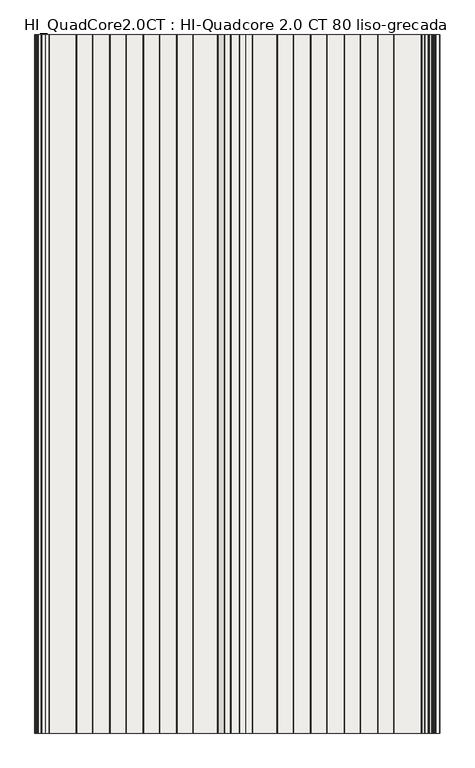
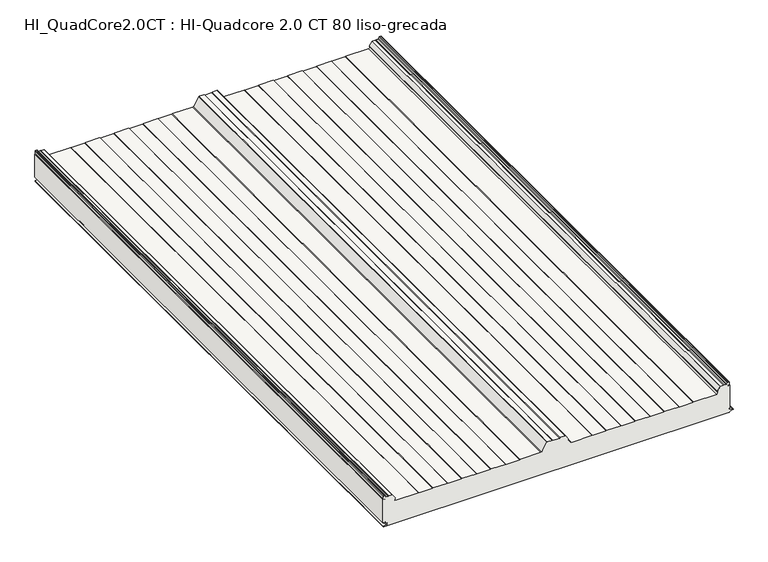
"""IFC4 building model written with IfcOpenShell, lengths in millimetres: slab geometry, HI_QuadCore2.0CT : HI-Quadcore 2.0 CT 80 liso-grecada."""

import ifcopenshell
import ifcopenshell.guid

model = None  # the IFC model being written
_history = None  # IfcOwnerHistory: only IFC2X3 demands one
_inside = {}  # id of a spatial element -> (the spatial element, [elements in it])
_under = {}  # id of a project, library or spatial element -> (it, [spatial elements below it])
_declared = {}  # id of a project -> (the project, [libraries it declares])
_typed = {}  # id of a type object -> (the type object, [elements of that type])
_made_of = {}  # id of a material, layer set ... -> (it, [elements and type objects made of it])


def new_model(schema):
    """Start an empty IFC model of exactly this schema.

    Asked for "IFC4X3", IfcOpenShell would pick the latest addendum, in which some entities
    have other attributes; the version numbers below select the first issue.
    IFC2X3 requires an IfcOwnerHistory on every rooted entity: one is made here for all.
    """
    global model, _history
    if schema == "IFC4X3":
        model = ifcopenshell.file(schema_version=(4, 3, 0, 0))
    else:
        model = ifcopenshell.file(schema=schema)
    _inside.clear()
    _under.clear()
    _declared.clear()
    _typed.clear()
    _made_of.clear()
    _history = None
    if model.schema == "IFC2X3":
        org = make("IfcOrganization", Name="unknown")
        user = make(
            "IfcPersonAndOrganization",
            ThePerson=make("IfcPerson", FamilyName="unknown"),
            TheOrganization=org,
        )
        app = make(
            "IfcApplication",
            ApplicationDeveloper=org,
            Version="unknown",
            ApplicationFullName="unknown",
            ApplicationIdentifier="unknown",
        )
        _history = make(
            "IfcOwnerHistory",
            OwningUser=user,
            OwningApplication=app,
            ChangeAction="ADDED",
            CreationDate=0,
        )
    return model


def make(cls, **values):
    """One entity of the class cls with the attributes given. An attribute that is None is left unset."""
    return model.create_entity(
        cls, **{name: value for name, value in values.items() if value is not None}
    )


def rooted(cls, **values):
    """An entity with a GlobalId (a new one), such as an element, a storey or a relation."""
    return make(cls, GlobalId=ifcopenshell.guid.new(), OwnerHistory=_history, **values)


def si_unit(unit_type, name, prefix=None):
    """IfcSIUnit, for example si_unit("LENGTHUNIT", "METRE", prefix="MILLI")."""
    return make("IfcSIUnit", UnitType=unit_type, Prefix=prefix, Name=name)


def assignment(units):
    """IfcUnitAssignment: the units of a project."""
    return None if units is None else make("IfcUnitAssignment", Units=units)


def point(xyz):
    """IfcCartesianPoint."""
    return None if xyz is None else make("IfcCartesianPoint", Coordinates=xyz)


def direction(xyz):
    """IfcDirection."""
    return None if xyz is None else make("IfcDirection", DirectionRatios=xyz)


def frame(location, z_axis=None, x_axis=None):
    """IfcAxis2Placement3D, a coordinate frame: its origin and axes. An axis left out is left unset."""
    return make(
        "IfcAxis2Placement3D",
        Location=point(location),
        Axis=direction(z_axis),
        RefDirection=direction(x_axis),
    )


def origin():
    """The frame at (0, 0, 0) with its axes left unset."""
    return frame((0.0, 0.0, 0.0))


def place(relative_to, where):
    """IfcLocalPlacement: puts the frame where relative to a parent placement (None: the world)."""
    return make(
        "IfcLocalPlacement", PlacementRelTo=relative_to, RelativePlacement=where
    )


def context(
    kind, dimensions, precision=None, world=None, true_north=None, identifier=None
):
    """IfcGeometricRepresentationContext, for example the 3D "Model" context."""
    return make(
        "IfcGeometricRepresentationContext",
        ContextIdentifier=identifier,
        ContextType=kind,
        CoordinateSpaceDimension=dimensions,
        Precision=precision,
        WorldCoordinateSystem=world,
        TrueNorth=true_north,
    )


def project(units=None, contexts=None):
    """IfcProject with its units and contexts."""
    return rooted(
        "IfcProject",
        Name="project",
        RepresentationContexts=contexts,
        UnitsInContext=assignment(units),
    )


def spatial(cls, under=None, at=None, **own):
    """A site, building, storey or space (cls), placed at a placement, below another one or the project."""
    s = rooted(cls, ObjectPlacement=at, **own)
    if under is not None:
        _under.setdefault(under.id(), (under, []))[1].append(s)
    return s


def polyline(points):
    """IfcPolyline through the points."""
    return make("IfcPolyline", Points=[point(p) for p in points])


def circle_curve(where, radius):
    """IfcCircle in the frame where."""
    return make("IfcCircle", Position=where, Radius=radius)


def shape(context_of_items, identifier, shape_type, items):
    """IfcShapeRepresentation: the items that make up one representation, for example the "Body"."""
    return make(
        "IfcShapeRepresentation",
        ContextOfItems=context_of_items,
        RepresentationIdentifier=identifier,
        RepresentationType=shape_type,
        Items=items,
    )


def source(mapping_origin, context_of_items, identifier, shape_type, items):
    """IfcRepresentationMap: a shape defined once, which mapped items show again and again."""
    return make(
        "IfcRepresentationMap",
        MappingOrigin=mapping_origin,
        MappedRepresentation=shape(context_of_items, identifier, shape_type, items),
    )


def transform(
    local_origin,
    x_axis=None,
    y_axis=None,
    z_axis=None,
    scale=None,
    scale2=None,
    scale3=None,
    uniform=True,
):
    """IfcCartesianTransformationOperator3D, or its non-uniform kind. x_axis, y_axis, z_axis: its Axis1, 2, 3."""
    if uniform:
        return make(
            "IfcCartesianTransformationOperator3D",
            Axis1=direction(x_axis),
            Axis2=direction(y_axis),
            LocalOrigin=point(local_origin),
            Scale=scale,
            Axis3=direction(z_axis),
        )
    return make(
        "IfcCartesianTransformationOperator3DnonUniform",
        Axis1=direction(x_axis),
        Axis2=direction(y_axis),
        LocalOrigin=point(local_origin),
        Scale=scale,
        Axis3=direction(z_axis),
        Scale2=scale2,
        Scale3=scale3,
    )


def mapped(mapping_source, mapping_target):
    """IfcMappedItem: shows the shape of a source again, moved by a transform."""
    return make(
        "IfcMappedItem", MappingSource=mapping_source, MappingTarget=mapping_target
    )


def made_of(thing, what):
    """Note that an element or type object is made of a material, layer set ...; save() writes the relation."""
    if what is not None:
        _made_of.setdefault(what.id(), (what, []))[1].append(thing)
    return thing


def element(
    cls,
    number,
    at=None,
    inside=None,
    cuts=None,
    type_object=None,
    material=None,
    context=None,
    identifier="Body",
    shape_type=None,
    held_by="IfcProductDefinitionShape",
    body=None,
    shapes=None,
    **own,
):
    """One element of the class cls, such as IfcWall. Its Tag is "e" and its number.

    at: its placement. inside: the storey or other place that contains it. cuts: it is an
    opening in that element (IfcRelVoidsElement). A single representation is given by context,
    identifier, shape_type and body (its items); several are given by shapes. held_by: the class
    of the entity that holds the representations. save() writes the other relations.
    """
    e = rooted(cls, Tag="e%d" % number, ObjectPlacement=at, **own)
    if body is not None:
        shapes = [shape(context, identifier, shape_type, body)]
    if shapes is not None:
        e.Representation = make(held_by, Representations=shapes)
    if inside is not None:
        _inside.setdefault(inside.id(), (inside, []))[1].append(e)
    if cuts is not None:
        rooted(
            "IfcRelVoidsElement", RelatingBuildingElement=cuts, RelatedOpeningElement=e
        )
    if type_object is not None:
        _typed.setdefault(type_object.id(), (type_object, []))[1].append(e)
    return made_of(e, material)


def aggregate(whole, parts):
    """IfcRelAggregates: a whole, such as a stair, and the parts it consists of."""
    return rooted("IfcRelAggregates", RelatingObject=whole, RelatedObjects=parts)


def save(model, path):
    """Write the relations noted so far, then the file.

    IfcRelAggregates (storeys below a building ...), IfcRelContainedInSpatialStructure (elements
    in a storey), IfcRelDefinesByType, IfcRelAssociatesMaterial and IfcRelDeclares: one each for
    every whole, place, type object, material and project.
    """
    for whole, parts in _under.values():
        aggregate(whole, parts)
    for where, things in _inside.values():
        rooted(
            "IfcRelContainedInSpatialStructure",
            RelatedElements=things,
            RelatingStructure=where,
        )
    for kind, things in _typed.values():
        rooted("IfcRelDefinesByType", RelatedObjects=things, RelatingType=kind)
    for what, things in _made_of.values():
        rooted("IfcRelAssociatesMaterial", RelatedObjects=things, RelatingMaterial=what)
    for by, libraries in _declared.values():
        rooted("IfcRelDeclares", RelatingContext=by, RelatedDefinitions=libraries)
    model.write(path)


def plane_surface(at):
    """IfcPlane: the flat surface through the origin of the frame at, square to its z axis."""
    return make("IfcPlane", Position=at)


def cylinder_surface(at, radius):
    """IfcCylindricalSurface: all points at the distance radius from the z axis of the frame at."""
    return make("IfcCylindricalSurface", Position=at, Radius=radius)


def revolved_surface(curve, axis_point, axis_direction):
    """IfcSurfaceOfRevolution: the curve turned about the line through axis_point along axis_direction."""
    return make(
        "IfcSurfaceOfRevolution",
        SweptCurve=make("IfcArbitraryOpenProfileDef", ProfileType="CURVE", Curve=curve),
        AxisPosition=make("IfcAxis1Placement", Location=point(axis_point), Axis=direction(axis_direction)),
    )


def advanced_brep(points, edges, surfaces, faces):
    """IfcAdvancedBrep: a solid bounded by faces that lie on surfaces and meet in shared edges.

    An edge is (start, end): straight between two places in points (the first is 0);
    or (start, end, curve); or (start, end, curve, False) where it runs against its curve.
    A face is (place in surfaces, loops), or (place, loops, False) where it looks against
    its surface's normal. A loop lists edges by number (the first is 1), with a minus sign
    where the edge is run from its end to its start. The first loop is the outer one.
    """
    corners = [point(p) for p in points]
    vertices = [make("IfcVertexPoint", VertexGeometry=c) for c in corners]
    made = []
    for start, end, *more in edges:
        made.append(
            make(
                "IfcEdgeCurve",
                EdgeStart=vertices[start],
                EdgeEnd=vertices[end],
                EdgeGeometry=more[0] if more else make("IfcPolyline", Points=[corners[start], corners[end]]),
                SameSense=more[1] if len(more) > 1 else True,
            )
        )
    hull = []
    for where, loops, *sense in faces:
        bounds = []
        for j, loop in enumerate(loops):
            ring = [make("IfcOrientedEdge", EdgeElement=made[abs(k) - 1], Orientation=k > 0) for k in loop]
            bounds.append(
                make(
                    "IfcFaceOuterBound" if j == 0 else "IfcFaceBound",
                    Bound=make("IfcEdgeLoop", EdgeList=ring),
                    Orientation=True,
                )
            )
        hull.append(make("IfcAdvancedFace", Bounds=bounds, FaceSurface=surfaces[where], SameSense=sense[0] if sense else True))
    return make("IfcAdvancedBrep", Outer=make("IfcClosedShell", CfsFaces=hull))


def hi_quadcore2_0ct_hi_quadcore_2_0_ct_80_liso_grecada_df26bcd7(model_context):
    return source(origin(), model_context, "Body", "AdvancedBrep", [
        advanced_brep(
        [(5.1475465, 0.0, 95.7425833), (1.3824194, 0.0, 97.9163804), (0.0, 0.0, 97.9163804), (0.0, 0.0, 16.239302), (7.510215, 0.0, 16.239302), (7.510215, 0.0, 15.4391074), (3.6125693, 0.0, 15.4391074), (2.4319301, 0.0, 14.2584682), (3.4276302, 0.0, 13.0866965), (11.8278581, 0.0, 11.7547343), (11.7995989, 0.0, 4.4809044), (1.8467032, 0.0, 2.9844289), (2.0100062, 0.0, 0.8), (1147.9590685, 0.0, 0.8), (1149.3391392, 0.0, 2.1800708), (1152.5664905, 0.0, 5.8294074), (1160.7843221, 0.0, 6.8264698), (1160.7843299, 0.0, 9.4135286), (1150.8450446, 0.0, 10.6192254), (1147.8324398, 0.0, 14.0237344), (1147.2282701, 0.0, 15.44), (1142.7624398, 0.0, 15.44), (1142.7624398, 0.0, 16.239302), (1150.0, 0.0, 16.239302), (1150.0, 0.0, 97.9163804), (1148.8824194, 0.0, 97.9163804), (1145.1172924, 0.0, 95.7425833), (1144.7172924, 0.0, 96.4354036), (1148.5824194, 0.0, 98.6669358), (1148.5824194, 0.0, 108.1), (1147.4824194, 0.0, 109.2), (1143.8888221, 0.0, 109.2), (1142.8725546, 0.0, 108.5209518), (1141.0157992, 0.0, 104.0383476), (1138.8631598, 0.0, 102.6), (1132.1371875, 0.0, 102.6), (1130.4324194, 0.0, 101.8110374), (1128.7276514, 0.0, 102.6), (1119.4004541, 0.0, 102.6), (1118.4939153, 0.0, 102.1230469), (1109.1558806, 0.0, 88.5361221), (1109.356723, 0.0, 87.0692788), (1110.3070878, 0.0, 86.2744554), (1107.4852773, 0.0, 79.2), (1031.3816122, 0.0, 79.2), (1029.6495614, 0.0, 78.2), (984.6152775, 0.0, 78.2), (982.8832267, 0.0, 79.2), (935.3816122, 0.0, 79.2), (933.6495614, 0.0, 78.2), (888.6152775, 0.0, 78.2), (886.8832267, 0.0, 79.2), (839.3816122, 0.0, 79.2), (837.6495614, 0.0, 78.2), (792.6152775, 0.0, 78.2), (790.8832267, 0.0, 79.2), (743.3816122, 0.0, 79.2), (741.6495614, 0.0, 78.2), (696.6152775, 0.0, 78.2), (694.8832267, 0.0, 79.2), (625.9029123, 0.0, 79.2), (623.9344839, 0.0, 80.2833287), (605.9445057, 0.0, 108.6885573), (605.0152048, 0.0, 109.2), (588.8816122, 0.0, 109.2), (586.283536, 0.0, 107.7), (563.9813029, 0.0, 107.7), (561.3832267, 0.0, 109.2), (545.2496341, 0.0, 109.2), (544.3203331, 0.0, 108.6885573), (526.330355, 0.0, 80.2833287), (524.3619266, 0.0, 79.2), (455.3816122, 0.0, 79.2), (453.6495614, 0.0, 78.2), (408.6152775, 0.0, 78.2), (406.8832267, 0.0, 79.2), (359.3816122, 0.0, 79.2), (357.6495614, 0.0, 78.2), (312.6152775, 0.0, 78.2), (310.8832267, 0.0, 79.2), (263.3816122, 0.0, 79.2), (261.6495614, 0.0, 78.2), (216.6152775, 0.0, 78.2), (214.8832267, 0.0, 79.2), (167.3816122, 0.0, 79.2), (165.6495614, 0.0, 78.2), (120.6152775, 0.0, 78.2), (118.8832267, 0.0, 79.2), (42.7795617, 0.0, 79.2), (39.9577511, 0.0, 86.2744555), (40.9081159, 0.0, 87.0692788), (41.1089583, 0.0, 88.5361221), (31.7709236, 0.0, 102.1230469), (30.8643848, 0.0, 102.6), (21.5371875, 0.0, 102.6), (19.8324194, 0.0, 101.8110374), (18.1276514, 0.0, 102.6), (11.4016791, 0.0, 102.6), (9.2490397, 0.0, 104.0383476), (7.3922843, 0.0, 108.5209518), (6.3760168, 0.0, 109.2), (2.7824194, 0.0, 109.2), (1.6824194, 0.0, 108.1), (1.6824194, 0.0, 98.6669358), (5.5475465, 0.0, 96.4354036), (5.1475465, 2000.0, 95.7425833), (5.5475465, 2000.0, 96.4354036), (1.6824194, 2000.0, 98.6669358), (1.6824194, 2000.0, 108.1), (2.7824194, 2000.0, 109.2), (6.3760168, 2000.0, 109.2), (7.3922843, 2000.0, 108.5209518), (9.2490397, 2000.0, 104.0383476), (11.4016791, 2000.0, 102.6), (18.1276514, 2000.0, 102.6), (19.8324194, 2000.0, 101.8110374), (21.5371875, 2000.0, 102.6), (30.8643848, 2000.0, 102.6), (31.7709236, 2000.0, 102.1230469), (41.1089583, 2000.0, 88.5361221), (40.9081159, 2000.0, 87.0692788), (39.9577511, 2000.0, 86.2744555), (42.7795617, 2000.0, 79.2), (118.8832267, 2000.0, 79.2), (120.6152775, 2000.0, 78.2), (165.6495614, 2000.0, 78.2), (167.3816122, 2000.0, 79.2), (214.8832267, 2000.0, 79.2), (216.6152775, 2000.0, 78.2), (261.6495614, 2000.0, 78.2), (263.3816122, 2000.0, 79.2), (310.8832267, 2000.0, 79.2), (312.6152775, 2000.0, 78.2), (357.6495614, 2000.0, 78.2), (359.3816122, 2000.0, 79.2), (406.8832267, 2000.0, 79.2), (408.6152775, 2000.0, 78.2), (453.6495614, 2000.0, 78.2), (455.3816122, 2000.0, 79.2), (524.3619266, 2000.0, 79.2), (526.330355, 2000.0, 80.2833287), (544.3203331, 2000.0, 108.6885573), (545.2496341, 2000.0, 109.2), (561.3832267, 2000.0, 109.2), (563.9813029, 2000.0, 107.7), (586.283536, 2000.0, 107.7), (588.8816122, 2000.0, 109.2), (605.0152048, 2000.0, 109.2), (605.9445057, 2000.0, 108.6885573), (623.9344839, 2000.0, 80.2833287), (625.9029123, 2000.0, 79.2), (694.8832267, 2000.0, 79.2), (696.6152775, 2000.0, 78.2), (741.6495614, 2000.0, 78.2), (743.3816122, 2000.0, 79.2), (790.8832267, 2000.0, 79.2), (792.6152775, 2000.0, 78.2), (837.6495614, 2000.0, 78.2), (839.3816122, 2000.0, 79.2), (886.8832267, 2000.0, 79.2), (888.6152775, 2000.0, 78.2), (933.6495614, 2000.0, 78.2), (935.3816122, 2000.0, 79.2), (982.8832267, 2000.0, 79.2), (984.6152775, 2000.0, 78.2), (1029.6495614, 2000.0, 78.2), (1031.3816122, 2000.0, 79.2), (1107.4852773, 2000.0, 79.2), (1110.3070878, 2000.0, 86.2744554), (1109.356723, 2000.0, 87.0692788), (1109.1558806, 2000.0, 88.5361221), (1118.4939153, 2000.0, 102.1230469), (1119.4004541, 2000.0, 102.6), (1128.7276514, 2000.0, 102.6), (1130.4324194, 2000.0, 101.8110374), (1132.1371875, 2000.0, 102.6), (1138.8631598, 2000.0, 102.6), (1141.0157992, 2000.0, 104.0383476), (1142.8725546, 2000.0, 108.5209518), (1143.8888221, 2000.0, 109.2), (1147.4824194, 2000.0, 109.2), (1148.5824194, 2000.0, 108.1), (1148.5824194, 2000.0, 98.6669358), (1144.7172924, 2000.0, 96.4354036), (1145.1172924, 2000.0, 95.7425833), (1148.8824194, 2000.0, 97.9163804), (1150.0, 2000.0, 97.9163804), (1150.0, 2000.0, 16.239302), (1142.7624398, 2000.0, 16.239302), (1142.7624398, 2000.0, 15.44), (1147.2282701, 2000.0, 15.44), (1147.8324398, 2000.0, 14.0237344), (1150.8450446, 2000.0, 10.6192254), (1160.7843299, 2000.0, 9.4135286), (1160.7843221, 2000.0, 6.8264698), (1152.5664905, 2000.0, 5.8294074), (1149.3391392, 2000.0, 2.1800708), (1147.9590685, 2000.0, 0.8), (2.0100062, 2000.0, 0.8), (1.8467032, 2000.0, 2.9844289), (11.7995989, 2000.0, 4.4809044), (11.8278581, 2000.0, 11.7547343), (3.4273037, 2000.0, 13.0846342), (2.4319301, 2000.0, 14.2584682), (3.6125693, 2000.0, 15.4391074), (7.510215, 2000.0, 15.4391074), (7.510215, 2000.0, 16.239302), (0.0, 2000.0, 16.239302), (0.0, 2000.0, 97.9163804), (1.3824194, 2000.0, 97.9163804)],
        [
            (0, 1),
            (1, 2),
            (2, 3),
            (3, 4),
            (4, 5),
            (5, 6),
            (6, 7, circle_curve(frame((3.6125693, 0.0, 14.2584682), z_axis=(0.0, -1.0, 0.0), x_axis=(1.0, 0.0, 0.0)), 1.1806391)),
            (7, 8, circle_curve(frame((3.6121809, 0.0, 14.2524448), z_axis=(0.0, -1.0, 0.0), x_axis=(1.0, 0.0, 0.0)), 1.1802661)),
            (8, 9),
            (9, 10, circle_curve(frame((11.2524398, 0.0, 8.12), z_axis=(0.0, 1.0, 0.0), x_axis=(1.0, 0.0, 0.0)), 3.68)),
            (10, 11),
            (11, 12, circle_curve(frame((2.0100062, 0.0, 1.8983185), z_axis=(0.0, -1.0, 0.0), x_axis=(1.0, 0.0, 0.0)), 1.0983185)),
            (12, 13),
            (13, 14, circle_curve(frame((1147.9590685, 0.0, 2.1800708), z_axis=(0.0, -1.0, 0.0), x_axis=(1.0, 0.0, 0.0)), 1.3800708)),
            (14, 15, circle_curve(frame((1153.0160638, 0.0, 2.1800708), z_axis=(0.0, 1.0, 0.0), x_axis=(1.0, 0.0, 0.0)), 3.6769246)),
            (15, 16),
            (16, 17, circle_curve(frame((1160.5224398, 0.0, 8.12), z_axis=(0.0, -1.0, 0.0), x_axis=(1.0, 0.0, 0.0)), 1.3197737)),
            (17, 18),
            (18, 19, circle_curve(frame((1151.2624398, 0.0, 14.0237344), z_axis=(0.0, 1.0, 0.0), x_axis=(1.0, 0.0, 0.0)), 3.43)),
            (19, 20, circle_curve(frame((1145.8703839, 0.0, 14.0237344), z_axis=(0.0, -1.0, 0.0), x_axis=(1.0, 0.0, 0.0)), 1.9620559)),
            (20, 21),
            (21, 22),
            (22, 23),
            (23, 24),
            (24, 25),
            (25, 26),
            (26, 27),
            (27, 28),
            (28, 29),
            (29, 30, circle_curve(frame((1147.4824194, 0.0, 108.1), z_axis=(0.0, -1.0, 0.0), x_axis=(1.0, 0.0, 0.0)), 1.1)),
            (30, 31),
            (31, 32, circle_curve(frame((1143.8888221, 0.0, 108.1), z_axis=(0.0, -1.0, 0.0), x_axis=(1.0, 0.0, 0.0)), 1.1)),
            (32, 33),
            (33, 34, circle_curve(frame((1138.8631598, 0.0, 104.93), z_axis=(0.0, 1.0, 0.0), x_axis=(1.0, 0.0, 0.0)), 2.33)),
            (34, 35),
            (35, 36),
            (36, 37),
            (37, 38),
            (38, 39, circle_curve(frame((1119.4004541, 0.0, 101.5), z_axis=(0.0, -1.0, 0.0), x_axis=(1.0, 0.0, 0.0)), 1.1)),
            (39, 40),
            (40, 41, circle_curve(frame((1110.0624194, 0.0, 87.9130753), z_axis=(0.0, -1.0, 0.0), x_axis=(1.0, 0.0, 0.0)), 1.1)),
            (41, 42),
            (42, 43, circle_curve(frame((1107.4852773, 0.0, 83.3), z_axis=(0.0, 1.0, 0.0), x_axis=(1.0, 0.0, 0.0)), 4.1)),
            (43, 44),
            (44, 45),
            (45, 46),
            (46, 47),
            (47, 48),
            (48, 49),
            (49, 50),
            (50, 51),
            (51, 52),
            (52, 53),
            (53, 54),
            (54, 55),
            (55, 56),
            (56, 57),
            (57, 58),
            (58, 59),
            (59, 60),
            (60, 61, circle_curve(frame((625.9029123, 0.0, 81.53), z_axis=(0.0, 1.0, 0.0), x_axis=(1.0, 0.0, 0.0)), 2.33)),
            (61, 62),
            (62, 63, circle_curve(frame((605.0152048, 0.0, 108.1), z_axis=(0.0, -1.0, 0.0), x_axis=(1.0, 0.0, 0.0)), 1.1)),
            (63, 64),
            (64, 65),
            (65, 66),
            (66, 67),
            (67, 68),
            (68, 69, circle_curve(frame((545.2496341, 0.0, 108.1), z_axis=(0.0, -1.0, 0.0), x_axis=(1.0, 0.0, 0.0)), 1.1)),
            (69, 70),
            (70, 71, circle_curve(frame((524.3619266, 0.0, 81.53), z_axis=(0.0, 1.0, 0.0), x_axis=(1.0, 0.0, 0.0)), 2.33)),
            (71, 72),
            (72, 73),
            (73, 74),
            (74, 75),
            (75, 76),
            (76, 77),
            (77, 78),
            (78, 79),
            (79, 80),
            (80, 81),
            (81, 82),
            (82, 83),
            (83, 84),
            (84, 85),
            (85, 86),
            (86, 87),
            (87, 88),
            (88, 89, circle_curve(frame((42.7795617, 0.0, 83.3), z_axis=(0.0, 1.0, 0.0), x_axis=(1.0, 0.0, 0.0)), 4.1)),
            (89, 90),
            (90, 91, circle_curve(frame((40.2024195, 0.0, 87.9130752), z_axis=(0.0, -1.0, 0.0), x_axis=(1.0, 0.0, 0.0)), 1.1)),
            (91, 92),
            (92, 93, circle_curve(frame((30.8643848, 0.0, 101.5), z_axis=(0.0, -1.0, 0.0), x_axis=(1.0, 0.0, 0.0)), 1.1)),
            (93, 94),
            (94, 95),
            (95, 96),
            (96, 97),
            (97, 98, circle_curve(frame((11.4016791, 0.0, 104.93), z_axis=(0.0, 1.0, 0.0), x_axis=(1.0, 0.0, 0.0)), 2.33)),
            (98, 99),
            (99, 100, circle_curve(frame((6.3760168, 0.0, 108.1), z_axis=(0.0, -1.0, 0.0), x_axis=(1.0, 0.0, 0.0)), 1.1)),
            (100, 101),
            (101, 102, circle_curve(frame((2.7824194, 0.0, 108.1), z_axis=(0.0, -1.0, 0.0), x_axis=(1.0, 0.0, 0.0)), 1.1)),
            (102, 103),
            (103, 104),
            (104, 0),
            (105, 106),
            (106, 107),
            (107, 108),
            (108, 109, circle_curve(frame((2.7824194, 2000.0, 108.1), z_axis=(0.0, 1.0, 0.0), x_axis=(1.0, 0.0, 0.0)), 1.1)),
            (109, 110),
            (110, 111, circle_curve(frame((6.3760168, 2000.0, 108.1), z_axis=(0.0, 1.0, 0.0), x_axis=(1.0, 0.0, 0.0)), 1.1)),
            (111, 112),
            (112, 113, circle_curve(frame((11.4016791, 2000.0, 104.93), z_axis=(0.0, -1.0, 0.0), x_axis=(1.0, 0.0, 0.0)), 2.33)),
            (113, 114),
            (114, 115),
            (115, 116),
            (116, 117),
            (117, 118, circle_curve(frame((30.8643848, 2000.0, 101.5), z_axis=(0.0, 1.0, 0.0), x_axis=(1.0, 0.0, 0.0)), 1.1)),
            (118, 119),
            (119, 120, circle_curve(frame((40.2024195, 2000.0, 87.9130752), z_axis=(0.0, 1.0, 0.0), x_axis=(1.0, 0.0, 0.0)), 1.1)),
            (120, 121),
            (121, 122, circle_curve(frame((42.7795617, 2000.0, 83.3), z_axis=(0.0, -1.0, 0.0), x_axis=(1.0, 0.0, 0.0)), 4.1)),
            (122, 123),
            (123, 124),
            (124, 125),
            (125, 126),
            (126, 127),
            (127, 128),
            (128, 129),
            (129, 130),
            (130, 131),
            (131, 132),
            (132, 133),
            (133, 134),
            (134, 135),
            (135, 136),
            (136, 137),
            (137, 138),
            (138, 139),
            (139, 140, circle_curve(frame((524.3619266, 2000.0, 81.53), z_axis=(0.0, -1.0, 0.0), x_axis=(1.0, 0.0, 0.0)), 2.33)),
            (140, 141),
            (141, 142, circle_curve(frame((545.2496341, 2000.0, 108.1), z_axis=(0.0, 1.0, 0.0), x_axis=(1.0, 0.0, 0.0)), 1.1)),
            (142, 143),
            (143, 144),
            (144, 145),
            (145, 146),
            (146, 147),
            (147, 148, circle_curve(frame((605.0152048, 2000.0, 108.1), z_axis=(0.0, 1.0, 0.0), x_axis=(1.0, 0.0, 0.0)), 1.1)),
            (148, 149),
            (149, 150, circle_curve(frame((625.9029123, 2000.0, 81.53), z_axis=(0.0, -1.0, 0.0), x_axis=(1.0, 0.0, 0.0)), 2.33)),
            (150, 151),
            (151, 152),
            (152, 153),
            (153, 154),
            (154, 155),
            (155, 156),
            (156, 157),
            (157, 158),
            (158, 159),
            (159, 160),
            (160, 161),
            (161, 162),
            (162, 163),
            (163, 164),
            (164, 165),
            (165, 166),
            (166, 167),
            (167, 168, circle_curve(frame((1107.4852773, 2000.0, 83.3), z_axis=(0.0, -1.0, 0.0), x_axis=(1.0, 0.0, 0.0)), 4.1)),
            (168, 169),
            (169, 170, circle_curve(frame((1110.0624194, 2000.0, 87.9130753), z_axis=(0.0, 1.0, 0.0), x_axis=(1.0, 0.0, 0.0)), 1.1)),
            (170, 171),
            (171, 172, circle_curve(frame((1119.4004541, 2000.0, 101.5), z_axis=(0.0, 1.0, 0.0), x_axis=(1.0, 0.0, 0.0)), 1.1)),
            (172, 173),
            (173, 174),
            (174, 175),
            (175, 176),
            (176, 177, circle_curve(frame((1138.8631598, 2000.0, 104.93), z_axis=(0.0, -1.0, 0.0), x_axis=(1.0, 0.0, 0.0)), 2.33)),
            (177, 178),
            (178, 179, circle_curve(frame((1143.8888221, 2000.0, 108.1), z_axis=(0.0, 1.0, 0.0), x_axis=(1.0, 0.0, 0.0)), 1.1)),
            (179, 180),
            (180, 181, circle_curve(frame((1147.4824194, 2000.0, 108.1), z_axis=(0.0, 1.0, 0.0), x_axis=(1.0, 0.0, 0.0)), 1.1)),
            (181, 182),
            (182, 183),
            (183, 184),
            (184, 185),
            (185, 186),
            (186, 187),
            (187, 188),
            (188, 189),
            (189, 190),
            (190, 191, circle_curve(frame((1145.8703839, 2000.0, 14.0237344), z_axis=(0.0, 1.0, 0.0), x_axis=(1.0, 0.0, 0.0)), 1.9620559)),
            (191, 192, circle_curve(frame((1151.2624398, 2000.0, 14.0237344), z_axis=(0.0, -1.0, 0.0), x_axis=(1.0, 0.0, 0.0)), 3.43)),
            (192, 193),
            (193, 194, circle_curve(frame((1160.5224398, 2000.0, 8.12), z_axis=(0.0, 1.0, 0.0), x_axis=(1.0, 0.0, 0.0)), 1.3197737)),
            (194, 195),
            (195, 196, circle_curve(frame((1153.0160638, 2000.0, 2.1800708), z_axis=(0.0, -1.0, 0.0), x_axis=(1.0, 0.0, 0.0)), 3.6769246)),
            (196, 197, circle_curve(frame((1147.9590685, 2000.0, 2.1800708), z_axis=(0.0, 1.0, 0.0), x_axis=(1.0, 0.0, 0.0)), 1.3800708)),
            (197, 198),
            (198, 199, circle_curve(frame((2.0100062, 2000.0, 1.8983185), z_axis=(0.0, 1.0, 0.0), x_axis=(1.0, 0.0, 0.0)), 1.0983185)),
            (199, 200),
            (200, 201, circle_curve(frame((11.2524398, 2000.0, 8.12), z_axis=(0.0, -1.0, 0.0), x_axis=(1.0, 0.0, 0.0)), 3.68)),
            (201, 202),
            (202, 203, circle_curve(frame((3.6121809, 2000.0, 14.2524448), z_axis=(0.0, 1.0, 0.0), x_axis=(1.0, 0.0, 0.0)), 1.1802661)),
            (203, 204, circle_curve(frame((3.6125693, 2000.0, 14.2584682), z_axis=(0.0, 1.0, 0.0), x_axis=(1.0, 0.0, 0.0)), 1.1806391)),
            (204, 205),
            (205, 206),
            (206, 207),
            (207, 208),
            (208, 209),
            (209, 105),
            (0, 105),
            (209, 1),
            (208, 2),
            (207, 3),
            (186, 24),
            (23, 187),
            (185, 25),
            (184, 26),
            (183, 27),
            (182, 28),
            (181, 29),
            (180, 30),
            (179, 31),
            (178, 32),
            (177, 33),
            (176, 34),
            (175, 35),
            (174, 36),
            (173, 37),
            (172, 38),
            (171, 39),
            (170, 40),
            (169, 41),
            (168, 42),
            (167, 43),
            (166, 44),
            (165, 45),
            (164, 46),
            (163, 47),
            (162, 48),
            (161, 49),
            (160, 50),
            (159, 51),
            (158, 52),
            (157, 53),
            (156, 54),
            (155, 55),
            (154, 56),
            (153, 57),
            (152, 58),
            (151, 59),
            (150, 60),
            (149, 61),
            (148, 62),
            (147, 63),
            (146, 64),
            (145, 65),
            (144, 66),
            (143, 67),
            (142, 68),
            (141, 69),
            (140, 70),
            (139, 71),
            (138, 72),
            (137, 73),
            (136, 74),
            (135, 75),
            (134, 76),
            (133, 77),
            (132, 78),
            (131, 79),
            (130, 80),
            (129, 81),
            (128, 82),
            (127, 83),
            (126, 84),
            (125, 85),
            (124, 86),
            (123, 87),
            (122, 88),
            (121, 89),
            (120, 90),
            (119, 91),
            (118, 92),
            (117, 93),
            (116, 94),
            (115, 95),
            (114, 96),
            (113, 97),
            (112, 98),
            (111, 99),
            (110, 100),
            (109, 101),
            (108, 102),
            (107, 103),
            (106, 104),
            (22, 188),
            (206, 4),
            (205, 5),
            (204, 6),
            (203, 7),
            (202, 8),
            (201, 9),
            (200, 10),
            (199, 11),
            (198, 12),
            (197, 13),
            (196, 14),
            (195, 15),
            (194, 16),
            (193, 17),
            (192, 18),
            (191, 19),
            (190, 20),
            (189, 21),
        ],
        [
            plane_surface(frame((1.3824194, 0.0, 97.9163804), z_axis=(0.0, -1.0, 0.0), x_axis=(-0.866025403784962, 0.0, 0.4999999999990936))),
            plane_surface(frame((1.3824194, 2000.0, 97.9163804), z_axis=(0.0, 1.0, 0.0), x_axis=(0.866025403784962, 0.0, -0.4999999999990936))),
            plane_surface(frame((5.1475465, 0.0, 95.7425833), z_axis=(0.4999999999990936, 0.0, 0.866025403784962), x_axis=(0.0, 1.0, 0.0))),
            plane_surface(frame((1.3824194, 0.0, 97.9163804), z_axis=(0.0, 0.0, 1.0), x_axis=(0.0, 1.0, 0.0))),
            plane_surface(frame((0.0, 0.0, 97.9163804), z_axis=(-1.0, 0.0, 0.0), x_axis=(0.0, 1.0, 0.0))),
            plane_surface(frame((1150.0, 0.0, 70.0), z_axis=(1.0, 0.0, 0.0), x_axis=(0.0, 1.0, 0.0))),
            plane_surface(frame((1150.0, 0.0, 97.9163804), z_axis=(0.0, 0.0, 1.0), x_axis=(0.0, 1.0, 0.0))),
            plane_surface(frame((1148.8824194, 0.0, 97.9163804), z_axis=(-0.4999999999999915, 0.0, 0.8660254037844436), x_axis=(0.0, 1.0, 0.0))),
            plane_surface(frame((1145.1172924, 0.0, 95.7425833), z_axis=(0.8660254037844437, 0.0, 0.49999999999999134), x_axis=(0.0, 1.0, 0.0))),
            plane_surface(frame((1144.7172924, 0.0, 96.4354036), z_axis=(0.4999999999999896, 0.0, -0.8660254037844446), x_axis=(0.0, 1.0, 0.0))),
            plane_surface(frame((1148.5824194, 0.0, 98.6669358), z_axis=(1.0, 0.0, 0.0), x_axis=(0.0, 1.0, 0.0))),
            cylinder_surface(frame((1147.4824194, 2000.0, 108.1), z_axis=(0.0, -1.0, 0.0), x_axis=(1.0, 0.0, 0.0)), 1.1),
            plane_surface(frame((1147.4824194, 0.0, 109.2), z_axis=(0.0, 0.0, 1.0), x_axis=(0.0, 1.0, 0.0))),
            cylinder_surface(frame((1143.8888221, 2000.0, 108.1), z_axis=(0.0, -1.0, 0.0), x_axis=(1.0, 0.0, 0.0)), 1.1),
            plane_surface(frame((1142.8725546, 0.0, 108.5209518), z_axis=(-0.9238795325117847, 0.0, 0.38268343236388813), x_axis=(0.0, 1.0, 0.0))),
            revolved_surface(polyline([(1141.1931597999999, 2000.0, 104.93), (1141.1931597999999, 0.0, 104.93)]), (1138.8631598, 2000.0, 104.93), (0.0, 1.0, 0.0)),
            plane_surface(frame((1138.8631598, 0.0, 102.6), z_axis=(0.0, 0.0, 1.0), x_axis=(0.0, 1.0, 0.0))),
            plane_surface(frame((1132.1371875, 0.0, 102.6), z_axis=(-0.4199999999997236, 0.0, 0.9075241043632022), x_axis=(0.0, 1.0, 0.0))),
            plane_surface(frame((1130.4324194, 0.0, 101.8110374), z_axis=(0.42000000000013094, 0.0, 0.9075241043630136), x_axis=(0.0, 1.0, 0.0))),
            plane_surface(frame((1128.7276514, 0.0, 102.6), z_axis=(0.0, 0.0, 1.0), x_axis=(0.0, 1.0, 0.0))),
            cylinder_surface(frame((1119.4004541, 2000.0, 101.5), z_axis=(0.0, -1.0, 0.0), x_axis=(1.0, 0.0, 0.0)), 1.1),
            plane_surface(frame((1118.4939153, 0.0, 102.1230469), z_axis=(-0.824126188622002, 0.0, 0.5664062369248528), x_axis=(0.0, 1.0, 0.0))),
            cylinder_surface(frame((1110.0624194, 2000.0, 87.9130753), z_axis=(0.0, -1.0, 0.0), x_axis=(1.0, 0.0, 0.0)), 1.1),
            plane_surface(frame((1109.356723, 0.0, 87.0692788), z_axis=(-0.641542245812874, 0.0, -0.7670877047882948), x_axis=(0.0, 1.0, 0.0))),
            revolved_surface(polyline([(1111.5852773, 2000.0, 83.3), (1111.5852773, 0.0, 83.3)]), (1107.4852773, 2000.0, 83.3), (0.0, 1.0, 0.0)),
            plane_surface(frame((1107.4852773, 0.0, 79.2), z_axis=(0.0, 0.0, 1.0), x_axis=(0.0, 1.0, 0.0))),
            plane_surface(frame((1031.3816122, 0.0, 79.2), z_axis=(-0.4999999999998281, 0.0, 0.866025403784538), x_axis=(0.0, 1.0, 0.0))),
            plane_surface(frame((1029.6495614, 0.0, 78.2), z_axis=(0.0, 0.0, 1.0), x_axis=(0.0, 1.0, 0.0))),
            plane_surface(frame((984.6152775, 0.0, 78.2), z_axis=(0.4999999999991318, 0.0, 0.86602540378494), x_axis=(0.0, 1.0, 0.0))),
            plane_surface(frame((982.8832267, 0.0, 79.2), z_axis=(0.0, 0.0, 1.0), x_axis=(0.0, 1.0, 0.0))),
            plane_surface(frame((935.3816122, 0.0, 79.2), z_axis=(-0.49999999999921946, 0.0, 0.8660254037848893), x_axis=(0.0, 1.0, 0.0))),
            plane_surface(frame((933.6495614, 0.0, 78.2), z_axis=(0.0, 0.0, 1.0), x_axis=(0.0, 1.0, 0.0))),
            plane_surface(frame((888.6152775, 0.0, 78.2), z_axis=(0.49999999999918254, 0.0, 0.8660254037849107), x_axis=(0.0, 1.0, 0.0))),
            plane_surface(frame((886.8832267, 0.0, 79.2), z_axis=(0.0, 0.0, 1.0), x_axis=(0.0, 1.0, 0.0))),
            plane_surface(frame((839.3816122, 0.0, 79.2), z_axis=(-0.4999999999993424, 0.0, 0.8660254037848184), x_axis=(0.0, 1.0, 0.0))),
            plane_surface(frame((837.6495614, 0.0, 78.2), z_axis=(0.0, 0.0, 1.0), x_axis=(0.0, 1.0, 0.0))),
            plane_surface(frame((792.6152775, 0.0, 78.2), z_axis=(0.4999999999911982, 0.0, 0.8660254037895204), x_axis=(0.0, 1.0, 0.0))),
            plane_surface(frame((790.8832267, 0.0, 79.2), z_axis=(0.0, 0.0, 1.0), x_axis=(0.0, 1.0, 0.0))),
            plane_surface(frame((743.3816122, 0.0, 79.2), z_axis=(-0.5000000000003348, 0.0, 0.8660254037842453), x_axis=(0.0, 1.0, 0.0))),
            plane_surface(frame((741.6495614, 0.0, 78.2), z_axis=(0.0, 0.0, 1.0), x_axis=(0.0, 1.0, 0.0))),
            plane_surface(frame((696.6152775, 0.0, 78.2), z_axis=(0.5000000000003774, 0.0, 0.8660254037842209), x_axis=(0.0, 1.0, 0.0))),
            plane_surface(frame((694.8832267, 0.0, 79.2), z_axis=(0.0, 0.0, 1.0), x_axis=(0.0, 1.0, 0.0))),
            revolved_surface(polyline([(628.2329123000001, 2000.0, 81.53), (628.2329123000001, 0.0, 81.53)]), (625.9029123, 2000.0, 81.53), (0.0, 1.0, 0.0)),
            plane_surface(frame((623.9344839, 0.0, 80.2833287), z_axis=(0.8448190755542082, 0.0, 0.5350520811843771), x_axis=(0.0, 1.0, 0.0))),
            cylinder_surface(frame((605.0152048, 2000.0, 108.1), z_axis=(0.0, -1.0, 0.0), x_axis=(1.0, 0.0, 0.0)), 1.1),
            plane_surface(frame((605.0152048, 0.0, 109.2), z_axis=(0.0, 0.0, 1.0), x_axis=(0.0, 1.0, 0.0))),
            plane_surface(frame((588.8816122, 0.0, 109.2), z_axis=(-0.4999999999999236, 0.0, 0.8660254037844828), x_axis=(0.0, 1.0, 0.0))),
            plane_surface(frame((586.283536, 0.0, 107.7), z_axis=(0.0, 0.0, 1.0), x_axis=(0.0, 1.0, 0.0))),
            plane_surface(frame((563.9813029, 0.0, 107.7), z_axis=(0.5000000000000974, 0.0, 0.8660254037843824), x_axis=(0.0, 1.0, 0.0))),
            plane_surface(frame((561.3832267, 0.0, 109.2), z_axis=(0.0, 0.0, 1.0), x_axis=(0.0, 1.0, 0.0))),
            cylinder_surface(frame((545.2496341, 2000.0, 108.1), z_axis=(0.0, -1.0, 0.0), x_axis=(1.0, 0.0, 0.0)), 1.1),
            plane_surface(frame((544.3203331, 0.0, 108.6885573), z_axis=(-0.8448190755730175, 0.0, 0.5350520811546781), x_axis=(0.0, 1.0, 0.0))),
            revolved_surface(polyline([(526.6919266, 2000.0, 81.53), (526.6919266, 0.0, 81.53)]), (524.3619266, 2000.0, 81.53), (0.0, 1.0, 0.0)),
            plane_surface(frame((524.3619266, 0.0, 79.2), z_axis=(0.0, 0.0, 1.0), x_axis=(0.0, 1.0, 0.0))),
            plane_surface(frame((455.3816122, 0.0, 79.2), z_axis=(-0.5000000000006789, 0.0, 0.8660254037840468), x_axis=(0.0, 1.0, 0.0))),
            plane_surface(frame((453.6495614, 0.0, 78.2), z_axis=(0.0, 0.0, 1.0), x_axis=(0.0, 1.0, 0.0))),
            plane_surface(frame((408.6152775, 0.0, 78.2), z_axis=(0.49999999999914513, 0.0, 0.8660254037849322), x_axis=(0.0, 1.0, 0.0))),
            plane_surface(frame((406.8832267, 0.0, 79.2), z_axis=(0.0, 0.0, 1.0), x_axis=(0.0, 1.0, 0.0))),
            plane_surface(frame((359.3816122, 0.0, 79.2), z_axis=(-0.500000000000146, 0.0, 0.8660254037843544), x_axis=(0.0, 1.0, 0.0))),
            plane_surface(frame((357.6495614, 0.0, 78.2), z_axis=(0.0, 0.0, 1.0), x_axis=(0.0, 1.0, 0.0))),
            plane_surface(frame((312.6152775, 0.0, 78.2), z_axis=(0.49999999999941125, 0.0, 0.8660254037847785), x_axis=(0.0, 1.0, 0.0))),
            plane_surface(frame((310.8832267, 0.0, 79.2), z_axis=(0.0, 0.0, 1.0), x_axis=(0.0, 1.0, 0.0))),
            plane_surface(frame((263.3816122, 0.0, 79.2), z_axis=(-0.4999999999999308, 0.0, 0.8660254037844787), x_axis=(0.0, 1.0, 0.0))),
            plane_surface(frame((261.6495614, 0.0, 78.2), z_axis=(0.0, 0.0, 1.0), x_axis=(0.0, 1.0, 0.0))),
            plane_surface(frame((216.6152775, 0.0, 78.2), z_axis=(0.49999999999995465, 0.0, 0.8660254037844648), x_axis=(0.0, 1.0, 0.0))),
            plane_surface(frame((214.8832267, 0.0, 79.2), z_axis=(0.0, 0.0, 1.0), x_axis=(0.0, 1.0, 0.0))),
            plane_surface(frame((167.3816122, 0.0, 79.2), z_axis=(-0.5000000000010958, 0.0, 0.866025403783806), x_axis=(0.0, 1.0, 0.0))),
            plane_surface(frame((165.6495614, 0.0, 78.2), z_axis=(0.0, 0.0, 1.0), x_axis=(0.0, 1.0, 0.0))),
            plane_surface(frame((120.6152775, 0.0, 78.2), z_axis=(0.4999999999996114, 0.0, 0.8660254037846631), x_axis=(0.0, 1.0, 0.0))),
            plane_surface(frame((118.8832267, 0.0, 79.2), z_axis=(0.0, 0.0, 1.0), x_axis=(0.0, 1.0, 0.0))),
            revolved_surface(polyline([(46.879561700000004, 2000.0, 83.3), (46.879561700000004, 0.0, 83.3)]), (42.7795617, 2000.0, 83.3), (0.0, 1.0, 0.0)),
            plane_surface(frame((39.9577511, 0.0, 86.2744555), z_axis=(0.6415422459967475, 0.0, -0.7670877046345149), x_axis=(0.0, 1.0, 0.0))),
            cylinder_surface(frame((40.2024195, 2000.0, 87.9130752), z_axis=(0.0, -1.0, 0.0), x_axis=(1.0, 0.0, 0.0)), 1.1),
            plane_surface(frame((41.1089583, 0.0, 88.5361221), z_axis=(0.8241261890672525, 0.0, 0.5664062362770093), x_axis=(0.0, 1.0, 0.0))),
            cylinder_surface(frame((30.8643848, 2000.0, 101.5), z_axis=(0.0, -1.0, 0.0), x_axis=(1.0, 0.0, 0.0)), 1.1),
            plane_surface(frame((30.8643848, 0.0, 102.6), z_axis=(0.0, 0.0, 1.0), x_axis=(0.0, 1.0, 0.0))),
            plane_surface(frame((21.5371875, 0.0, 102.6), z_axis=(-0.41999999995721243, 0.0, 0.9075241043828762), x_axis=(0.0, 1.0, 0.0))),
            plane_surface(frame((19.8324194, 0.0, 101.8110374), z_axis=(0.4200000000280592, 0.0, 0.9075241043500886), x_axis=(0.0, 1.0, 0.0))),
            plane_surface(frame((18.1276514, 0.0, 102.6), z_axis=(0.0, 0.0, 1.0), x_axis=(0.0, 1.0, 0.0))),
            revolved_surface(polyline([(13.731679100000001, 2000.0, 104.93), (13.731679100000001, 0.0, 104.93)]), (11.4016791, 2000.0, 104.93), (0.0, 1.0, 0.0)),
            plane_surface(frame((9.2490397, 0.0, 104.0383476), z_axis=(0.9238795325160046, 0.0, 0.3826834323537), x_axis=(0.0, 1.0, 0.0))),
            cylinder_surface(frame((6.3760168, 2000.0, 108.1), z_axis=(0.0, -1.0, 0.0), x_axis=(1.0, 0.0, 0.0)), 1.1),
            plane_surface(frame((6.3760168, 0.0, 109.2), z_axis=(0.0, 0.0, 1.0), x_axis=(0.0, 1.0, 0.0))),
            cylinder_surface(frame((2.7824194, 2000.0, 108.1), z_axis=(0.0, -1.0, 0.0), x_axis=(1.0, 0.0, 0.0)), 1.1),
            plane_surface(frame((1.6824194, 0.0, 108.1), z_axis=(-1.0, 0.0, 0.0), x_axis=(0.0, 1.0, 0.0))),
            plane_surface(frame((1.6824194, 0.0, 98.6669358), z_axis=(-0.49999999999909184, 0.0, -0.866025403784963), x_axis=(0.0, 1.0, 0.0))),
            plane_surface(frame((5.5475465, 0.0, 96.4354036), z_axis=(-0.866025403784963, 0.0, 0.4999999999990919), x_axis=(0.0, 1.0, 0.0))),
            plane_surface(frame((0.0, 0.0, 16.239302), z_axis=(0.0, 0.0, -1.0), x_axis=(0.0, 1.0, 0.0))),
            plane_surface(frame((7.510215, 0.0, 16.239302), z_axis=(-1.0, 0.0, 0.0), x_axis=(0.0, 1.0, 0.0))),
            plane_surface(frame((7.510215, 0.0, 15.4391074), z_axis=(0.0, 0.0, 1.0), x_axis=(0.0, 1.0, 0.0))),
            cylinder_surface(frame((3.6125693, 2000.0, 14.2584682), z_axis=(0.0, -1.0, 0.0), x_axis=(1.0, 0.0, 0.0)), 1.1806391),
            cylinder_surface(frame((3.6121809, 2000.0, 14.2524448), z_axis=(0.0, -1.0, 0.0), x_axis=(1.0, 0.0, 0.0)), 1.1802661),
            plane_surface(frame((3.4273037, 0.0, 13.0846342), z_axis=(-0.1563636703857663, 0.0, -0.9876995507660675), x_axis=(0.0, 1.0, 0.0))),
            revolved_surface(polyline([(14.9324398, 2000.0, 8.12), (14.9324398, 0.0, 8.12)]), (11.2524398, 2000.0, 8.12), (0.0, 1.0, 0.0)),
            plane_surface(frame((11.7995989, 0.0, 4.4809044), z_axis=(-0.14868453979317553, 0.0, 0.9888846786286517), x_axis=(0.0, 1.0, 0.0))),
            cylinder_surface(frame((2.0100062, 2000.0, 1.8983185), z_axis=(0.0, -1.0, 0.0), x_axis=(1.0, 0.0, 0.0)), 1.0983185),
            plane_surface(frame((2.0100062, 0.0, 0.8), z_axis=(0.0, 0.0, -1.0), x_axis=(0.0, 1.0, 0.0))),
            cylinder_surface(frame((1147.9590685, 2000.0, 2.1800708), z_axis=(0.0, -1.0, 0.0), x_axis=(1.0, 0.0, 0.0)), 1.3800708),
            revolved_surface(polyline([(1156.6929883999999, 2000.0, 2.1800708), (1156.6929883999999, 0.0, 2.1800708)]), (1153.0160638, 2000.0, 2.1800708), (0.0, 1.0, 0.0)),
            plane_surface(frame((1152.5664905, 0.0, 5.8294074), z_axis=(0.12044584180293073, 0.0, -0.9927198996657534), x_axis=(0.0, 1.0, 0.0))),
            cylinder_surface(frame((1160.5224398, 2000.0, 8.12), z_axis=(0.0, -1.0, 0.0), x_axis=(1.0, 0.0, 0.0)), 1.3197737),
            plane_surface(frame((1160.7843299, 0.0, 9.4135286), z_axis=(0.12042339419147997, 0.0, 0.9927226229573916), x_axis=(0.0, 1.0, 0.0))),
            revolved_surface(polyline([(1154.6924398, 2000.0, 14.0237344), (1154.6924398, 0.0, 14.0237344)]), (1151.2624398, 2000.0, 14.0237344), (0.0, 1.0, 0.0)),
            cylinder_surface(frame((1145.8703839, 2000.0, 14.0237344), z_axis=(0.0, -1.0, 0.0), x_axis=(1.0, 0.0, 0.0)), 1.9620559),
            plane_surface(frame((1147.2282701, 0.0, 15.44), z_axis=(0.0, 0.0, 1.0), x_axis=(0.0, 1.0, 0.0))),
            plane_surface(frame((1142.7624398, 0.0, 15.44), z_axis=(1.0, 0.0, 0.0), x_axis=(0.0, 1.0, 0.0))),
        ],
        [
            (0, [[1, 2, 3, 4, 5, 6, 7, 8, 9, 10, 11, 12, 13, 14, 15, 16, 17, 18, 19, 20, 21, 22, 23, 24, 25, 26, 27, 28, 29, 30, 31, 32, 33, 34, 35, 36, 37, 38, 39, 40, 41, 42, 43, 44, 45, 46, 47, 48, 49, 50, 51, 52, 53, 54, 55, 56, 57, 58, 59, 60, 61, 62, 63, 64, 65, 66, 67, 68, 69, 70, 71, 72, 73, 74, 75, 76, 77, 78, 79, 80, 81, 82, 83, 84, 85, 86, 87, 88, 89, 90, 91, 92, 93, 94, 95, 96, 97, 98, 99, 100, 101, 102, 103, 104, 105]]),
            (1, [[106, 107, 108, 109, 110, 111, 112, 113, 114, 115, 116, 117, 118, 119, 120, 121, 122, 123, 124, 125, 126, 127, 128, 129, 130, 131, 132, 133, 134, 135, 136, 137, 138, 139, 140, 141, 142, 143, 144, 145, 146, 147, 148, 149, 150, 151, 152, 153, 154, 155, 156, 157, 158, 159, 160, 161, 162, 163, 164, 165, 166, 167, 168, 169, 170, 171, 172, 173, 174, 175, 176, 177, 178, 179, 180, 181, 182, 183, 184, 185, 186, 187, 188, 189, 190, 191, 192, 193, 194, 195, 196, 197, 198, 199, 200, 201, 202, 203, 204, 205, 206, 207, 208, 209, 210]]),
            (2, [[-1, 211, -210, 212]]),
            (3, [[-2, -212, -209, 213]]),
            (4, [[-213, -208, 214, -3]]),
            (5, [[215, -24, 216, -187]]),
            (6, [[-25, -215, -186, 217]]),
            (7, [[-26, -217, -185, 218]]),
            (8, [[-27, -218, -184, 219]]),
            (9, [[-28, -219, -183, 220]]),
            (10, [[-29, -220, -182, 221]]),
            (11, [[-30, -221, -181, 222]]),
            (12, [[-31, -222, -180, 223]]),
            (13, [[-32, -223, -179, 224]]),
            (14, [[-33, -224, -178, 225]]),
            (15, [[-34, -225, -177, 226]]),
            (16, [[-35, -226, -176, 227]]),
            (17, [[-36, -227, -175, 228]]),
            (18, [[-37, -228, -174, 229]]),
            (19, [[-38, -229, -173, 230]]),
            (20, [[-39, -230, -172, 231]]),
            (21, [[-40, -231, -171, 232]]),
            (22, [[-41, -232, -170, 233]]),
            (23, [[-42, -233, -169, 234]]),
            (24, [[-43, -234, -168, 235]]),
            (25, [[-44, -235, -167, 236]]),
            (26, [[-45, -236, -166, 237]]),
            (27, [[-46, -237, -165, 238]]),
            (28, [[-47, -238, -164, 239]]),
            (29, [[-48, -239, -163, 240]]),
            (30, [[-49, -240, -162, 241]]),
            (31, [[-50, -241, -161, 242]]),
            (32, [[-51, -242, -160, 243]]),
            (33, [[-52, -243, -159, 244]]),
            (34, [[-53, -244, -158, 245]]),
            (35, [[-54, -245, -157, 246]]),
            (36, [[-55, -246, -156, 247]]),
            (37, [[-56, -247, -155, 248]]),
            (38, [[-57, -248, -154, 249]]),
            (39, [[-58, -249, -153, 250]]),
            (40, [[-59, -250, -152, 251]]),
            (41, [[-60, -251, -151, 252]]),
            (42, [[-61, -252, -150, 253]]),
            (43, [[-62, -253, -149, 254]]),
            (44, [[-63, -254, -148, 255]]),
            (45, [[-64, -255, -147, 256]]),
            (46, [[-65, -256, -146, 257]]),
            (47, [[-66, -257, -145, 258]]),
            (48, [[-67, -258, -144, 259]]),
            (49, [[-68, -259, -143, 260]]),
            (50, [[-69, -260, -142, 261]]),
            (51, [[-70, -261, -141, 262]]),
            (52, [[-71, -262, -140, 263]]),
            (53, [[-72, -263, -139, 264]]),
            (54, [[-73, -264, -138, 265]]),
            (55, [[-74, -265, -137, 266]]),
            (56, [[-75, -266, -136, 267]]),
            (57, [[-76, -267, -135, 268]]),
            (58, [[-77, -268, -134, 269]]),
            (59, [[-78, -269, -133, 270]]),
            (60, [[-79, -270, -132, 271]]),
            (61, [[-80, -271, -131, 272]]),
            (62, [[-81, -272, -130, 273]]),
            (63, [[-82, -273, -129, 274]]),
            (64, [[-83, -274, -128, 275]]),
            (65, [[-84, -275, -127, 276]]),
            (66, [[-85, -276, -126, 277]]),
            (67, [[-86, -277, -125, 278]]),
            (68, [[-87, -278, -124, 279]]),
            (69, [[-88, -279, -123, 280]]),
            (70, [[-89, -280, -122, 281]]),
            (71, [[-90, -281, -121, 282]]),
            (72, [[-91, -282, -120, 283]]),
            (73, [[-92, -283, -119, 284]]),
            (74, [[-93, -284, -118, 285]]),
            (75, [[-94, -285, -117, 286]]),
            (76, [[-95, -286, -116, 287]]),
            (77, [[-96, -287, -115, 288]]),
            (78, [[-97, -288, -114, 289]]),
            (79, [[-98, -289, -113, 290]]),
            (80, [[-99, -290, -112, 291]]),
            (81, [[-100, -291, -111, 292]]),
            (82, [[-101, -292, -110, 293]]),
            (83, [[-102, -293, -109, 294]]),
            (84, [[-103, -294, -108, 295]]),
            (85, [[-104, -295, -107, 296]]),
            (86, [[-105, -296, -106, -211]]),
            (87, [[-216, -23, 297, -188]]),
            (87, [[-214, -207, 298, -4]]),
            (88, [[-5, -298, -206, 299]]),
            (89, [[-6, -299, -205, 300]]),
            (90, [[-7, -300, -204, 301]]),
            (91, [[-8, -301, -203, 302]]),
            (92, [[-9, -302, -202, 303]]),
            (93, [[-10, -303, -201, 304]]),
            (94, [[-11, -304, -200, 305]]),
            (95, [[-12, -305, -199, 306]]),
            (96, [[-13, -306, -198, 307]]),
            (97, [[-14, -307, -197, 308]]),
            (98, [[-15, -308, -196, 309]]),
            (99, [[-16, -309, -195, 310]]),
            (100, [[-17, -310, -194, 311]]),
            (101, [[-18, -311, -193, 312]]),
            (102, [[-19, -312, -192, 313]]),
            (103, [[-20, -313, -191, 314]]),
            (104, [[-21, -314, -190, 315]]),
            (105, [[-22, -315, -189, -297]]),
        ],
    ),
    ])


if __name__ == "__main__":
    model = new_model("IFC4")
    model_context = context("Model", 3, world=origin())
    ifc_project = project(units=[si_unit("LENGTHUNIT", "METRE", prefix="MILLI")], contexts=[model_context])
    site = spatial("IfcSite", under=ifc_project)
    building = spatial("IfcBuilding", under=site)
    placement = place(None, origin())
    hi_quadcore2_0ct_hi_quadcore_2_0_ct_80_liso_grecada_shape = hi_quadcore2_0ct_hi_quadcore_2_0_ct_80_liso_grecada_df26bcd7(model_context)
    element("IfcSlab", 1, ObjectType="HI_QuadCore2.0CT : HI-Quadcore 2.0 CT 80 liso-grecada", at=placement, inside=building, context=model_context, shape_type="MappedRepresentation", body=[
        mapped(hi_quadcore2_0ct_hi_quadcore_2_0_ct_80_liso_grecada_shape, transform((0.0, 0.0, 0.0), x_axis=(1.0, 0.0, 0.0), y_axis=(0.0, 1.0, 0.0), z_axis=(0.0, 0.0, 1.0))),
    ])
    save(model, "model.ifc")
